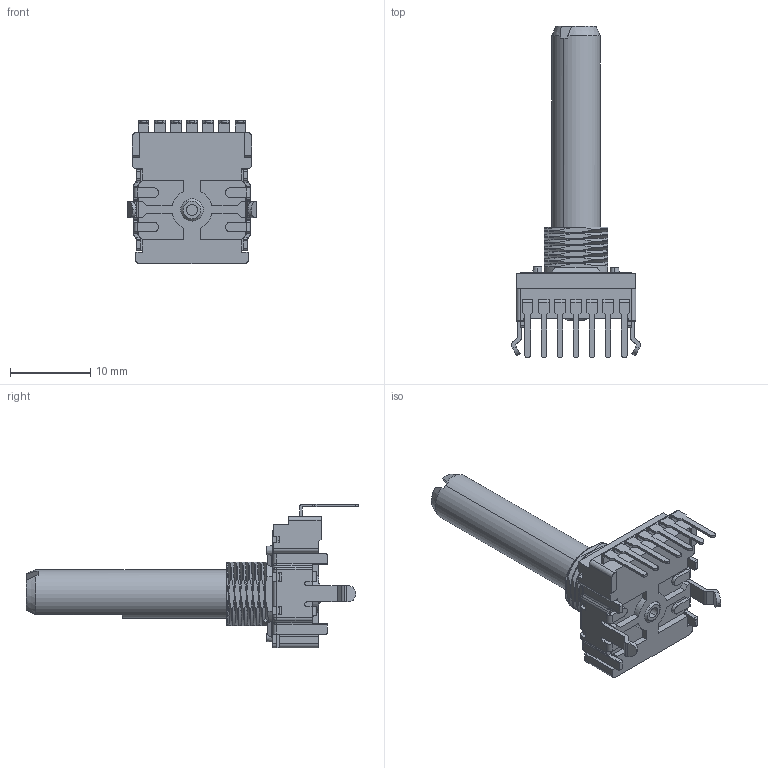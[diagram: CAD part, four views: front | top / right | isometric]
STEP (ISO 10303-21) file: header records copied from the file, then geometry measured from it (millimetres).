
FILE_DESCRIPTION (( 'STEP AP203' ), '1' );
FILE_NAME ('P140KH1-F30.STEP', '2026-09-15T18:43:34', ( '' ), ( '' ), 'SwSTEP 2.0', 'SolidWorks 2026', '' );
FILE_SCHEMA (( 'CONFIG_CONTROL_DESIGN' ));
Length unit declared in the file: millimetre
Products named in the file (8): Housing; 1-F30; KH-housing; spring_plate; KH1 bracket; P140KH1-F30; V-terminal; bushing
Assembly tree (13 placements, depth 3):
  P140KH1-F30
    KH-housing
      Housing
      V-terminal  x7
    1-F30
    spring_plate
    bushing
    KH1 bracket
Bounding box: 16.1 x 41.3 x 17.85 mm (x, y, z)
Volume: 1920.9 mm3; surface area: 3306.9 mm2
Topology: 12 solids, 12 shells, 774 faces, 2142 edges, 1384 vertices
Faces by surface type: plane 458, cylinder 228, bspline 65, cone 17, sphere 4, torus 2
Entity records: 36444 total; most frequent: CARTESIAN_POINT 18412, ORIENTED_EDGE 3836, DIRECTION 3227, EDGE_CURVE 1918, VERTEX_POINT 1240, VECTOR 1197, LINE 1197, AXIS2_PLACEMENT_3D 1015
